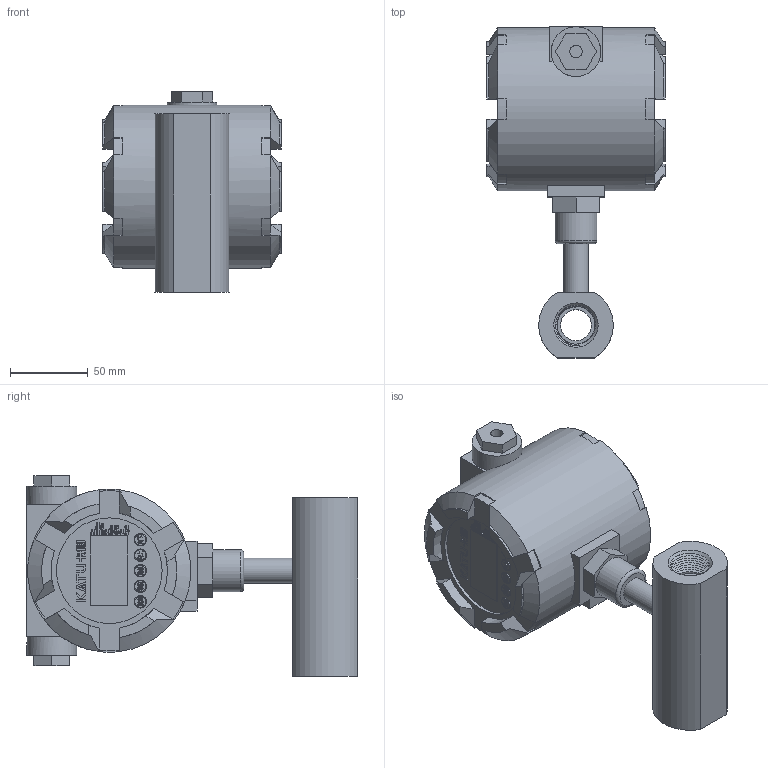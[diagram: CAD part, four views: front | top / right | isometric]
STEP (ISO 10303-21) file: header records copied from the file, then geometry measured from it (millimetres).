
FILE_DESCRIPTION( (''), '2;1');
FILE_NAME( 'QTKC_DN20_female-thread_Ex.step', '2024-10-14T14:39:18+08:00', (''), (''), '', '', '');
FILE_SCHEMA (('AUTOMOTIVE_DESIGN { 1 0 10303 214 3 1 1 1 }'));
Length unit declared in the file: millimetre
Products named in the file (1): QTKC DN20_female-thread_Ex
Bounding box: 115 x 213.5 x 129.2 mm (x, y, z)
Volume: 1099020.3 mm3; surface area: 109488.7 mm2
Topology: 4 solids, 4 shells, 1340 faces, 3668 edges, 2438 vertices
Faces by surface type: plane 725, extrusion 504, cylinder 69, bspline 20, cone 16, torus 6
Full cylindrical faces by diameter (mm): 3.3 x1, 8 x2, 15 x1, 16 x1, 18.5 x1, 20 x3, 24.5 x2, 27 x1, 32 x2, 68 x1, 105 x1
Entity records: 47645 total; most frequent: CARTESIAN_POINT 15943, ORIENTED_EDGE 7248, DIRECTION 4793, EDGE_CURVE 3624, VECTOR 2795, VERTEX_POINT 2421, LINE 2291, B_SPLINE_CURVE_WITH_KNOTS 1655
